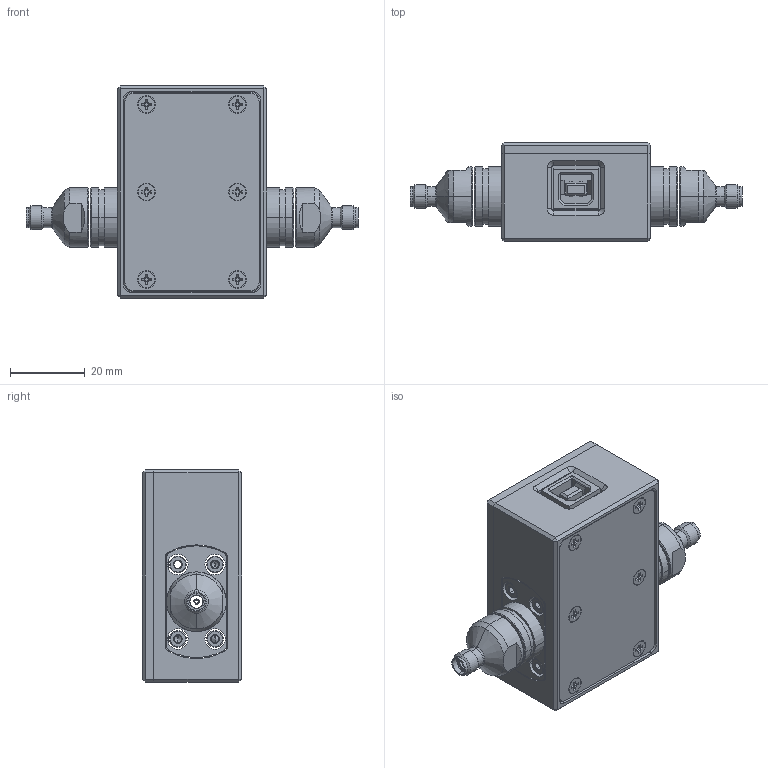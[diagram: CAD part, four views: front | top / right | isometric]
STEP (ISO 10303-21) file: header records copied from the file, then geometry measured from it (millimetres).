
FILE_DESCRIPTION (( 'STEP AP203' ), '1' );
FILE_NAME ('R0385.00.000-01 ACM2520 mod.111.STEP', '2020-06-10T09:32:10', ( '' ), ( '' ), 'SwSTEP 2.0', 'SolidWorks 2014', '' );
FILE_SCHEMA (( 'CONFIG_CONTROL_DESIGN' ));
Length unit declared in the file: millimetre
Products named in the file (1): R0385.00.000-01 ACM2520 mod.111
Bounding box: 89.12 x 26.6 x 57 mm (x, y, z)
Surface area: 20720.3 mm2 (no closed solid volume)
Topology: 0 solids, 45 shells, 712 faces, 2141 edges, 1454 vertices
Faces by surface type: plane 441, cylinder 128, cone 118, torus 25
Entity records: 24241 total; most frequent: CARTESIAN_POINT 5213, DIRECTION 3963, ORIENTED_EDGE 3505, EDGE_CURVE 2131, VERTEX_POINT 1454, VECTOR 1355, LINE 1355, AXIS2_PLACEMENT_3D 1304
